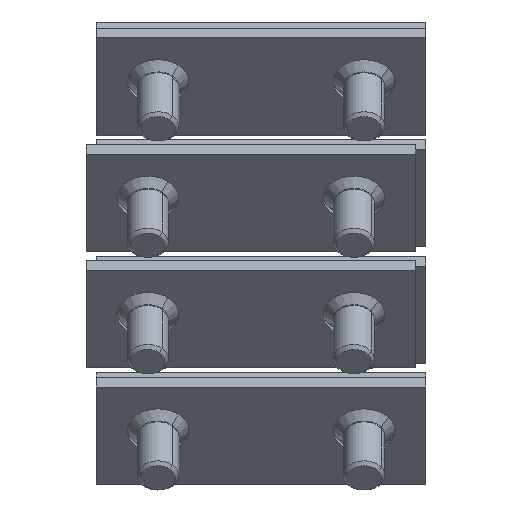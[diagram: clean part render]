
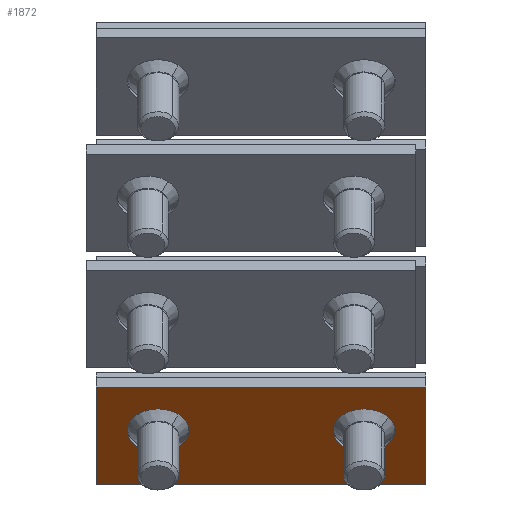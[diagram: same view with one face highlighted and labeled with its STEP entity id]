
A CAD part, left-side view. The second image highlights one B-rep face of the part: STEP entity #1872.
In plain terms, the highlighted planar face has unit normal (-0.707, 0, -0.707).
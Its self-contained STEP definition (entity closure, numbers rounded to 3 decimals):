
#261 = CARTESIAN_POINT ( 'NONE',  ( -20.271, 15., 5.778 ) ) ;
#288 = FACE_BOUND ( 'NONE', #4646, .T. ) ;
#355 = DIRECTION ( 'NONE',  ( 0.707, 0., 0.707 ) ) ;
#373 = ORIENTED_EDGE ( 'NONE', *, *, #4364, .T. ) ;
#421 = CARTESIAN_POINT ( 'NONE',  ( -20.271, 15., 5.778 ) ) ;
#438 = AXIS2_PLACEMENT_3D ( 'NONE', #421, #1892, #4442 ) ;
#602 = CARTESIAN_POINT ( 'NONE',  ( -12.493, -24., -2. ) ) ;
#709 = VERTEX_POINT ( 'NONE', #4787 ) ;
#718 = AXIS2_PLACEMENT_3D ( 'NONE', #4660, #4347, #2519 ) ;
#833 = VERTEX_POINT ( 'NONE', #2990 ) ;
#868 = CIRCLE ( 'NONE', #1013, 4.5 ) ;
#869 = VECTOR ( 'NONE', #4445, 1000. ) ;
#893 = EDGE_CURVE ( 'NONE', #3118, #709, #2350, .T. ) ;
#943 = DIRECTION ( 'NONE',  ( 0.707, 0., -0.707 ) ) ;
#1008 = CARTESIAN_POINT ( 'NONE',  ( -17.089, -15., 2.596 ) ) ;
#1013 = AXIS2_PLACEMENT_3D ( 'NONE', #261, #355, #4808 ) ;
#1016 = FACE_BOUND ( 'NONE', #4411, .T. ) ;
#1034 = EDGE_CURVE ( 'NONE', #2286, #3118, #2865, .T. ) ;
#1065 = CARTESIAN_POINT ( 'NONE',  ( -7.453, 0., -7.039 ) ) ;
#1071 = VERTEX_POINT ( 'NONE', #3977 ) ;
#1089 = CIRCLE ( 'NONE', #1700, 4.5 ) ;
#1121 = CARTESIAN_POINT ( 'NONE',  ( -23.453, -15., 8.96 ) ) ;
#1293 = ORIENTED_EDGE ( 'NONE', *, *, #3220, .F. ) ;
#1300 = DIRECTION ( 'NONE',  ( -0.707, 0., 0.707 ) ) ;
#1328 = ORIENTED_EDGE ( 'NONE', *, *, #4782, .T. ) ;
#1372 = CARTESIAN_POINT ( 'NONE',  ( -26.635, -24., 12.142 ) ) ;
#1475 = DIRECTION ( 'NONE',  ( 0.707, 0., 0.707 ) ) ;
#1483 = VERTEX_POINT ( 'NONE', #1121 ) ;
#1600 = ORIENTED_EDGE ( 'NONE', *, *, #1034, .T. ) ;
#1700 = AXIS2_PLACEMENT_3D ( 'NONE', #4704, #2856, #2783 ) ;
#1823 = CARTESIAN_POINT ( 'NONE',  ( -17.089, 15., 2.596 ) ) ;
#1872 = ADVANCED_FACE ( 'NONE', ( #1016, #288, #2579 ), #2182, .F. ) ;
#1892 = DIRECTION ( 'NONE',  ( 0.707, 0., 0.707 ) ) ;
#1984 = AXIS2_PLACEMENT_3D ( 'NONE', #1065, #1475, #3254 ) ;
#1989 = VECTOR ( 'NONE', #4396, 1000. ) ;
#2052 = VERTEX_POINT ( 'NONE', #4532 ) ;
#2080 = DIRECTION ( 'NONE',  ( 0.707, 0., -0.707 ) ) ;
#2143 = LINE ( 'NONE', #2641, #869 ) ;
#2165 = VERTEX_POINT ( 'NONE', #602 ) ;
#2182 = PLANE ( 'NONE',  #1984 ) ;
#2286 = VERTEX_POINT ( 'NONE', #1372 ) ;
#2295 = EDGE_CURVE ( 'NONE', #833, #4479, #868, .T. ) ;
#2350 = LINE ( 'NONE', #3174, #3483 ) ;
#2371 = ORIENTED_EDGE ( 'NONE', *, *, #4422, .T. ) ;
#2417 = ORIENTED_EDGE ( 'NONE', *, *, #2295, .T. ) ;
#2426 = CIRCLE ( 'NONE', #718, 4.5 ) ;
#2519 = DIRECTION ( 'NONE',  ( 0.707, 0., -0.707 ) ) ;
#2579 = FACE_OUTER_BOUND ( 'NONE', #2818, .T. ) ;
#2641 = CARTESIAN_POINT ( 'NONE',  ( -7.453, 24., -7.039 ) ) ;
#2783 = DIRECTION ( 'NONE',  ( 0.707, 0., -0.707 ) ) ;
#2811 = VECTOR ( 'NONE', #1300, 1000. ) ;
#2818 = EDGE_LOOP ( 'NONE', ( #2371, #1600, #4077, #4514, #1293, #3098 ) ) ;
#2856 = DIRECTION ( 'NONE',  ( 0.707, 0., 0.707 ) ) ;
#2865 = LINE ( 'NONE', #4348, #1989 ) ;
#2913 = EDGE_CURVE ( 'NONE', #4479, #833, #3559, .T. ) ;
#2990 = CARTESIAN_POINT ( 'NONE',  ( -23.453, 15., 8.96 ) ) ;
#3098 = ORIENTED_EDGE ( 'NONE', *, *, #3998, .F. ) ;
#3118 = VERTEX_POINT ( 'NONE', #4340 ) ;
#3132 = VECTOR ( 'NONE', #2080, 1000. ) ;
#3174 = CARTESIAN_POINT ( 'NONE',  ( -7.453, 24., -7.039 ) ) ;
#3177 = CARTESIAN_POINT ( 'NONE',  ( -13.371, -24., -1.121 ) ) ;
#3220 = EDGE_CURVE ( 'NONE', #2165, #2052, #4231, .T. ) ;
#3254 = DIRECTION ( 'NONE',  ( 0.707, 0., -0.707 ) ) ;
#3314 = VECTOR ( 'NONE', #3866, 1000. ) ;
#3483 = VECTOR ( 'NONE', #943, 1000. ) ;
#3543 = LINE ( 'NONE', #3177, #3132 ) ;
#3559 = CIRCLE ( 'NONE', #438, 4.5 ) ;
#3866 = DIRECTION ( 'NONE',  ( 0., 1., 0. ) ) ;
#3977 = CARTESIAN_POINT ( 'NONE',  ( -13.371, -24., -1.121 ) ) ;
#3998 = EDGE_CURVE ( 'NONE', #1071, #2165, #3543, .T. ) ;
#4077 = ORIENTED_EDGE ( 'NONE', *, *, #893, .T. ) ;
#4231 = LINE ( 'NONE', #4618, #3314 ) ;
#4340 = CARTESIAN_POINT ( 'NONE',  ( -26.635, 24., 12.142 ) ) ;
#4347 = DIRECTION ( 'NONE',  ( 0.707, 0., 0.707 ) ) ;
#4348 = CARTESIAN_POINT ( 'NONE',  ( -26.635, 0., 12.142 ) ) ;
#4364 = EDGE_CURVE ( 'NONE', #1483, #4405, #2426, .T. ) ;
#4396 = DIRECTION ( 'NONE',  ( 0., 1., 0. ) ) ;
#4405 = VERTEX_POINT ( 'NONE', #1008 ) ;
#4411 = EDGE_LOOP ( 'NONE', ( #4616, #2417 ) ) ;
#4422 = EDGE_CURVE ( 'NONE', #1071, #2286, #4635, .T. ) ;
#4442 = DIRECTION ( 'NONE',  ( 0.707, 0., -0.707 ) ) ;
#4445 = DIRECTION ( 'NONE',  ( 0.707, 0., -0.707 ) ) ;
#4464 = EDGE_CURVE ( 'NONE', #709, #2052, #2143, .T. ) ;
#4479 = VERTEX_POINT ( 'NONE', #1823 ) ;
#4514 = ORIENTED_EDGE ( 'NONE', *, *, #4464, .T. ) ;
#4532 = CARTESIAN_POINT ( 'NONE',  ( -12.493, 24., -2. ) ) ;
#4616 = ORIENTED_EDGE ( 'NONE', *, *, #2913, .T. ) ;
#4618 = CARTESIAN_POINT ( 'NONE',  ( -12.493, 0., -2. ) ) ;
#4635 = LINE ( 'NONE', #4733, #2811 ) ;
#4646 = EDGE_LOOP ( 'NONE', ( #1328, #373 ) ) ;
#4660 = CARTESIAN_POINT ( 'NONE',  ( -20.271, -15., 5.778 ) ) ;
#4704 = CARTESIAN_POINT ( 'NONE',  ( -20.271, -15., 5.778 ) ) ;
#4733 = CARTESIAN_POINT ( 'NONE',  ( -7.453, -24., -7.039 ) ) ;
#4782 = EDGE_CURVE ( 'NONE', #4405, #1483, #1089, .T. ) ;
#4787 = CARTESIAN_POINT ( 'NONE',  ( -13.371, 24., -1.121 ) ) ;
#4808 = DIRECTION ( 'NONE',  ( 0.707, 0., -0.707 ) ) ;
